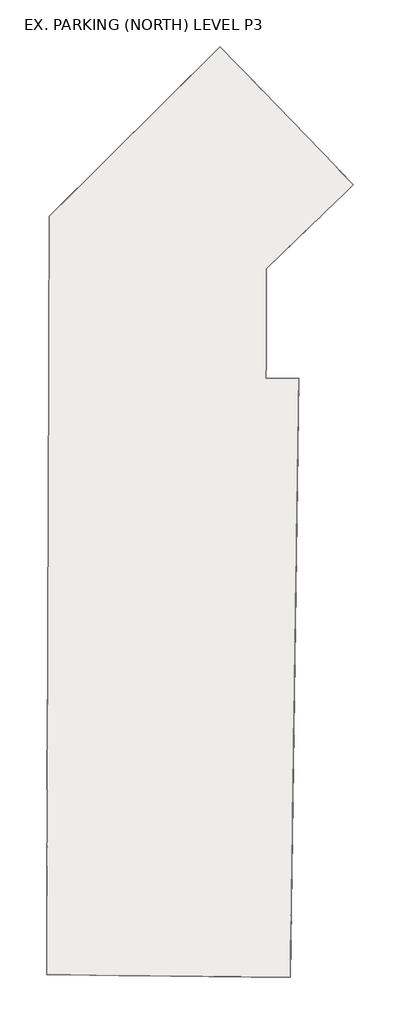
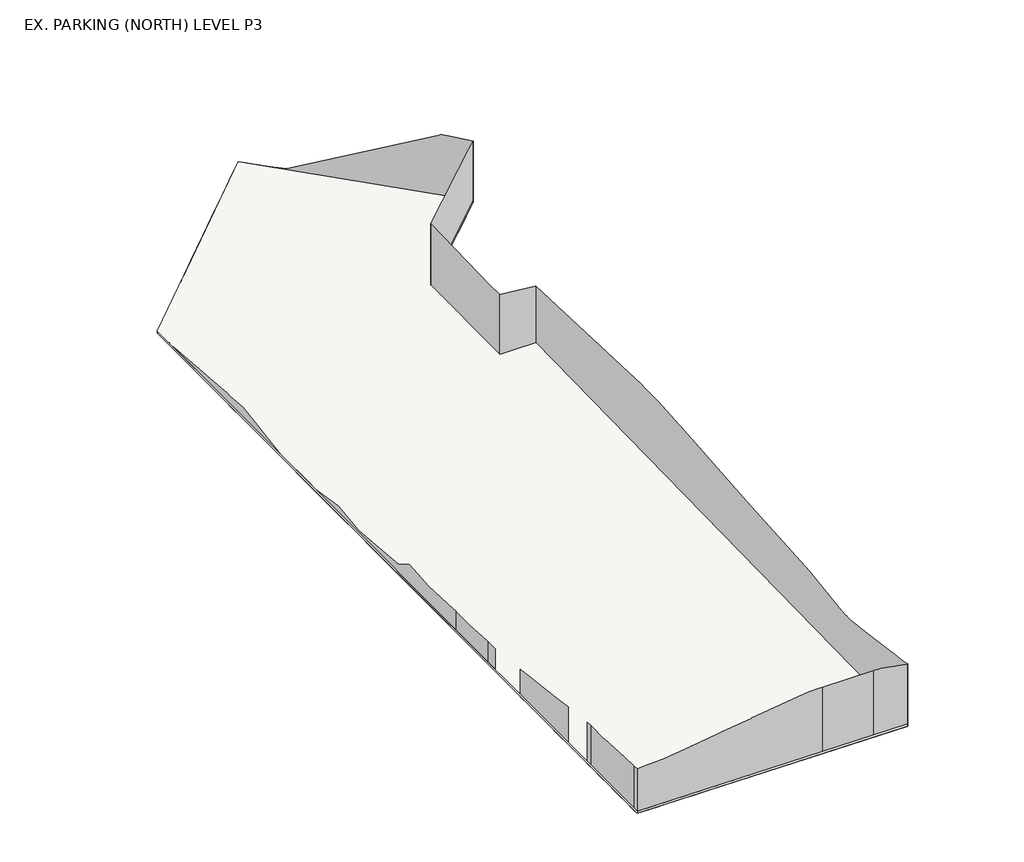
# One storey: 1 proxy, 1 slab.
"""IFC4 building model written with IfcOpenShell, lengths in millimetres."""

from ifc_helpers import new_model, si_unit, frame, origin, place, context, project, spatial, polyline, outline, extrude, triangles, element, save

model = new_model("IFC4")

# Units and contexts
model_context = context("Model", 3, world=origin())
ifc_project = project(units=[si_unit("LENGTHUNIT", "METRE", prefix="MILLI")], contexts=[model_context])

# Site, building, storey
site = spatial("IfcSite", under=ifc_project)
building = spatial("IfcBuilding", under=site)
storey = spatial("IfcBuildingStorey", under=building, Name="EX. PARKING (NORTH) LEVEL P3", Elevation=284378.4)

# Proxy
placement = place(None, origin())
element("IfcBuildingElementProxy", 1, Name="Building Element Proxy", at=placement, inside=storey, context=model_context, shape_type="Tessellation", body=[
    triangles([(-65365.5869019, 244857.5937012, 284073.4325684), (-65365.5869019, 244857.5937012, 287121.6), (-65365.3404053, 244927.1522461, 284073.4325684), (-65365.3404053, 244927.1522461, 287121.6), (-65365.3125, 244935.5424316, 284073.4325684), (-65365.3125, 244935.5424316, 287113.0051758), (-65364.8706665, 245059.9999512, 284073.4325684), (-65364.8706665, 245059.9999512, 287120.2977539), (-65364.8288086, 245072.1666504, 284073.4325684), (-65364.8288086, 245072.1666504, 287088.5229492), (-65364.8102051, 245077.5058594, 284073.4325684), (-65364.8102051, 245077.5058594, 287092.448291), (-65364.6753296, 245115.4198242, 284073.4325684), (-65364.6753296, 245115.4198242, 287121.6), (-65364.545105, 245151.3804199, 284073.4325684), (-65364.545105, 245151.3804199, 287121.6), (-65364.3637207, 245203.5446777, 284073.4325684), (-65364.3637207, 245203.5446777, 287125.4137207), (-65364.3497681, 245207.4328125, 284073.4325684), (-65364.3497681, 245207.4328125, 287126.0834473), (-65341.5, 251657.9972168, 284073.4325684), (-65341.5, 251657.9972168, 286821.5438965), (-65335.8352295, 253256.1694336, 284073.4325684), (-65335.8352295, 253256.1694336, 286924.9608398), (-65325.5939941, 256147.2859863, 284073.4325684), (-65325.5939941, 256147.2859863, 287115.6282715), (-65325.5474854, 256161.3316406, 284073.4325684), (-65325.5474854, 256161.3316406, 287121.6), (-65325.5381836, 256163.2478027, 284073.4325684), (-65325.5381836, 256163.2478027, 287121.6), (-65325.5195801, 256168.2521484, 284073.4325684), (-65325.5195801, 256168.2521484, 287113.6935059), (-65316.5666382, 258695.9118164, 284073.4325684), (-65316.5666382, 258695.9118164, 285597.6), (-65305.3998779, 261848.9286621, 284073.4325684), (-65305.3998779, 261848.9286621, 285292.8), (-65294.2284668, 265001.9641113, 284073.4325684), (-65294.2284668, 265001.9641113, 284988.0), (-65282.0757202, 268432.5640137, 284073.4325684), (-65282.0757202, 268432.5640137, 284683.2), (-65265.1279175, 273216.6068848, 284073.4325684), (-65265.1279175, 273216.6068848, 285307.9432617), (-65264.3977295, 273423.7198242, 284073.4325684), (-65264.3977295, 273423.7198242, 285298.9205566), (-65245.4128418, 278782.6299316, 284073.4325684), (-65245.4128418, 278782.6299316, 284378.4), (-65243.8547974, 279222.6402832, 284073.4325684), (-65243.8547974, 279222.6402832, 284374.5118652), (-65243.6129517, 279291.1012207, 284073.4325684), (-65243.6129517, 279291.1012207, 284378.4), (-65242.9618286, 279474.3458496, 284073.4325684), (-65242.9618286, 279474.3458496, 284378.4), (-65241.8363159, 279792.2799316, 284073.4325684), (-65241.8363159, 279792.2799316, 284487.4538086), (-65241.7898071, 279805.2837891, 284073.4325684), (-65241.7898071, 279805.2837891, 284479.1752441), (-65241.6874878, 279834.8633789, 284073.4325684), (-65241.6874878, 279834.8633789, 284471.4733887), (-65215.3728149, 287263.2657715, 284073.4325684), (-65215.3728149, 287263.2657715, 284378.4), (-65183.2305908, 296335.8654785, 284073.4325684), (-65183.2305908, 296335.8654785, 285793.9415039), (-65171.4685181, 299657.2255371, 284073.4325684), (-65171.4685181, 299657.2255371, 285531.9854004), (-65170.8313477, 299837.0471191, 284073.4325684), (-65170.8313477, 299837.0471191, 285547.5193359), (-65168.9849487, 300357.7223145, 284073.4325684), (-65168.9849487, 300357.7223145, 285521.9953125), (-65167.5013184, 300776.4502441, 284073.4325684), (-65167.5013184, 300776.4502441, 285517.9769531), (-65120.9785767, 313910.625293, 284073.4325684), (-65120.9785767, 313910.625293, 284363.6102051), (-65120.3786133, 314079.1731445, 284073.4325684), (-65120.3786133, 314079.1731445, 284385.0786621), (-65120.0623535, 314168.5816406, 284073.4325684), (-65120.0623535, 314168.5816406, 284401.4869629), (-65117.0299805, 315025.3851563, 284073.4325684), (-65117.0299805, 315025.3851563, 284304.1905762), (-65115.7277344, 315392.1720703, 284073.4325684), (-65115.7277344, 315392.1720703, 284073.6), (-65114.2161987, 315819.234375, 284073.4325684), (-65114.2161987, 315819.234375, 284073.6), (-65112.0721436, 316424.3323242, 284073.4325684), (-65112.0721436, 316424.3323242, 284073.6), (-65109.7467041, 317081.334082, 284073.4325684), (-65109.7467041, 317081.334082, 284080.7251465)], [[1, 4, 2], [1, 3, 4], [3, 6, 4], [3, 5, 6], [5, 8, 6], [5, 7, 8], [7, 10, 8], [7, 9, 10], [9, 12, 10], [9, 11, 12], [11, 14, 12], [11, 13, 14], [13, 16, 14], [13, 15, 16], [15, 18, 16], [15, 17, 18], [17, 20, 18], [17, 19, 20], [19, 22, 20], [19, 21, 22], [21, 24, 22], [21, 23, 24], [23, 26, 24], [23, 25, 26], [25, 28, 26], [25, 27, 28], [27, 30, 28], [27, 29, 30], [29, 32, 30], [29, 31, 32], [31, 34, 32], [31, 33, 34], [33, 36, 34], [33, 35, 36], [35, 38, 36], [35, 37, 38], [37, 40, 38], [37, 39, 40], [39, 42, 40], [39, 41, 42], [41, 44, 42], [41, 43, 44], [43, 46, 44], [43, 45, 46], [45, 48, 46], [45, 47, 48], [47, 50, 48], [47, 49, 50], [49, 52, 50], [49, 51, 52], [51, 54, 52], [51, 53, 54], [53, 56, 54], [53, 55, 56], [55, 58, 56], [55, 57, 58], [57, 60, 58], [57, 59, 60], [59, 62, 60], [59, 61, 62], [61, 64, 62], [61, 63, 64], [63, 66, 64], [63, 65, 66], [65, 68, 66], [65, 67, 68], [67, 70, 68], [67, 69, 70], [69, 72, 70], [69, 71, 72], [71, 74, 72], [71, 73, 74], [73, 76, 74], [73, 75, 76], [75, 78, 76], [75, 77, 78], [77, 80, 78], [77, 79, 80], [79, 82, 80], [79, 81, 82], [81, 84, 82], [81, 83, 84], [83, 86, 84], [83, 85, 86]], closed=False),
    triangles([(-65399.3197266, 235335.4400391, 284073.4325684), (-65399.3197266, 235335.4400391, 287409.6382324), (-65393.3805542, 237012.1935059, 284073.4325684), (-65393.3805542, 237012.1935059, 287386.7745117)], [[1, 4, 2], [1, 3, 4]], closed=False),
    triangles([(-65461.7438232, 217712.311084, 284073.4325684), (-65461.7438232, 217712.311084, 289560.0), (-65453.5024658, 220038.9783691, 284073.4325684), (-65453.5024658, 220038.9783691, 289255.2), (-65445.121582, 222404.9920898, 284073.4325684), (-65445.121582, 222404.9920898, 288950.4), (-65436.5267578, 224831.2998047, 284073.4325684), (-65436.5267578, 224831.2998047, 288645.6), (-65427.9319336, 227257.626123, 284073.4325684), (-65427.9319336, 227257.626123, 288340.8), (-65420.9044556, 229241.3934082, 284073.4325684), (-65420.9044556, 229241.3934082, 288056.780127), (-65420.848645, 229257.9133301, 284073.4325684), (-65420.848645, 229257.9133301, 288056.8731445)], [[1, 4, 2], [1, 3, 4], [3, 6, 4], [3, 5, 6], [5, 8, 6], [5, 7, 8], [7, 10, 8], [7, 9, 10], [9, 12, 10], [9, 11, 12], [11, 14, 12], [11, 13, 14]], closed=False),
    triangles([(-65480.993811, 212278.0009277, 284073.4325684), (-65480.993811, 212278.0009277, 290175.9437988), (-65480.765918, 212343.2806641, 284073.4325684), (-65480.765918, 212343.2806641, 290176.0182129), (-65478.3009521, 213039.0521484, 284073.4325684), (-65478.3009521, 213039.0521484, 290178.9017578)], [[1, 4, 2], [1, 3, 4], [3, 6, 4], [3, 5, 6]], closed=False),
    triangles([(-39970.0439941, 200737.8495117, 284073.4325684), (-39970.0439941, 200737.8495117, 293827.2), (-40449.1124268, 200743.2631348, 284073.4325684), (-40449.1124268, 200743.2631348, 293827.2), (-41620.3200073, 200756.4902344, 284073.4325684), (-41620.3200073, 200756.4902344, 293827.2), (-41652.7924438, 200756.8437012, 284073.4325684), (-41652.7924438, 200756.8437012, 293827.2), (-41845.1341919, 200759.0203125, 284073.4325684), (-41845.1341919, 200759.0203125, 293827.2), (-45643.3721191, 200801.9200195, 284073.4325684), (-45643.3721191, 200801.9200195, 293248.3330078), (-45761.7927979, 200803.2408691, 284073.4325684), (-45761.7927979, 200803.2408691, 293250.7328613), (-49680.4140747, 200847.4986328, 284073.4325684), (-49680.4140747, 200847.4986328, 292644.2768555), (-49709.1518555, 200847.8148926, 284073.4325684), (-49709.1518555, 200847.8148926, 292643.4583008), (-53812.4688354, 200894.15625, 284073.4325684), (-53812.4688354, 200894.15625, 292005.2460938), (-53818.8265869, 200894.2306641, 284073.4325684), (-53818.8265869, 200894.2306641, 292004.2787109), (-53823.8588379, 200894.2864746, 284073.4325684), (-53823.8588379, 200894.2864746, 292003.1625), (-54417.9295532, 200900.9837402, 284073.4325684), (-54417.9295532, 200900.9837402, 291911.0750977), (-57891.2431274, 200940.2185547, 284073.4325684), (-57891.2431274, 200940.2185547, 291408.2034668), (-58023.6815552, 200941.7068359, 284073.4325684), (-58023.6815552, 200941.7068359, 291388.8), (-58041.8757935, 200941.9114746, 284073.4325684), (-58041.8757935, 200941.9114746, 291388.8), (-61825.7611084, 200984.64375, 284073.4325684), (-61825.7611084, 200984.64375, 290843.4751465), (-62232.3828003, 200989.2202148, 284073.4325684), (-62232.3828003, 200989.2202148, 290779.2), (-62400.3074341, 200991.1177734, 284073.4325684), (-62400.3074341, 200991.1177734, 290779.2), (-63926.4468384, 201008.3632324, 284073.4325684), (-63926.4468384, 201008.3632324, 290715.0736816), (-65520.8518433, 201026.352832, 284073.4325684), (-65520.8518433, 201026.352832, 290612.4194824), (-65518.6287231, 201653.7191895, 284073.4325684), (-65518.6287231, 201653.7191895, 290585.4071777)], [[1, 4, 2], [1, 3, 4], [3, 6, 4], [3, 5, 6], [5, 8, 6], [5, 7, 8], [7, 10, 8], [7, 9, 10], [9, 12, 10], [9, 11, 12], [11, 14, 12], [11, 13, 14], [13, 16, 14], [13, 15, 16], [15, 18, 16], [15, 17, 18], [17, 20, 18], [17, 19, 20], [19, 22, 20], [19, 21, 22], [21, 24, 22], [21, 23, 24], [23, 26, 24], [23, 25, 26], [25, 28, 26], [25, 27, 28], [27, 30, 28], [27, 29, 30], [29, 32, 30], [29, 31, 32], [31, 34, 32], [31, 33, 34], [33, 36, 34], [33, 35, 36], [35, 38, 36], [35, 37, 38], [37, 40, 38], [37, 39, 40], [39, 42, 40], [39, 41, 42], [41, 44, 42], [41, 43, 44]], closed=False),
    triangles([(-65109.7467041, 317081.334082, 284073.4325684), (-65109.7467041, 317081.334082, 284080.7251465), (-61609.9045166, 320552.4524414, 284073.4325684), (-61609.9045166, 320552.4524414, 284083.9435547), (-61389.815625, 320770.7460938, 284073.4325684), (-61389.815625, 320770.7460938, 284084.2040039), (-61376.1885498, 320784.2522461, 284073.4325684), (-61376.1885498, 320784.2522461, 284083.9807617), (-54216.3418579, 327885.4001953, 284073.4325684), (-54216.3418579, 327885.4001953, 284378.4), (-50339.6343018, 331730.3375977, 284073.4325684), (-50339.6343018, 331730.3375977, 284378.4), (-46131.4539551, 335903.9991211, 284073.4325684), (-46131.4539551, 335903.9991211, 284378.4), (-43940.708606, 338076.778125, 284073.4325684), (-43940.708606, 338076.778125, 284378.4), (-40640.2309937, 341350.1783203, 284073.4325684), (-40640.2309937, 341350.1783203, 284378.4), (-38928.9587036, 343047.4142578, 284073.4325684), (-38928.9587036, 343047.4142578, 284378.4), (-36176.4662476, 340196.2394531, 284073.4325684), (-36176.4662476, 340196.2394531, 284378.4), (-34692.9591248, 338659.5518555, 284073.4325684), (-34692.9591248, 338659.5518555, 284512.0290527), (-21219.339679, 324702.8595703, 284073.4325684), (-21219.339679, 324702.8595703, 293275.4569336), (-20544.5366821, 324003.8510742, 284073.4325684), (-20544.5366821, 324003.8510742, 293212.8933105), (-18495.3699005, 321881.2271484, 284073.4325684), (-18495.3699005, 321881.2271484, 293089.2171387), (-20446.4031372, 319997.7328125, 284073.4325684), (-20446.4031372, 319997.7328125, 293209.879541), (-20878.5953613, 319580.4931641, 284073.4325684), (-20878.5953613, 319580.4931641, 293223.9251953), (-23344.6471619, 317199.8012695, 284073.4325684), (-23344.6471619, 317199.8012695, 293255.2349121), (-23596.345752, 316956.8021484, 284073.4325684), (-23596.345752, 316956.8021484, 293256.1278809), (-24444.298645, 316138.2102539, 284073.4325684), (-24444.298645, 316138.2102539, 293257.0580566), (-31788.7573242, 309047.9639648, 284073.4325684), (-31788.7573242, 309047.9639648, 293421.736377), (-31855.8997375, 294682.2175781, 284073.4325684), (-31855.8997375, 294682.2175781, 292995.1205566), (-31867.0920776, 292287.3684082, 284073.4325684), (-31867.0920776, 292287.3684082, 293132.2284668), (-26879.1639771, 292264.0582031, 284073.4325684), (-26879.1639771, 292264.0582031, 292677.3166992), (-27228.3682434, 267602.2705078, 284073.4325684), (-27228.3682434, 267602.2705078, 294110.5873535), (-27246.2276184, 266340.9335449, 284073.4325684), (-27246.2276184, 266340.9335449, 294109.4711426), (-27259.4384399, 265408.0044434, 284073.4325684), (-27259.4384399, 265408.0044434, 294106.2899414), (-27260.68255, 265320.1214355, 284073.4325684), (-27260.68255, 265320.1214355, 294104.3923828), (-27261.7266724, 265246.3026855, 284073.4325684), (-27261.7266724, 265246.3026855, 294103.9831055), (-27263.8846802, 265093.884082, 284073.4325684), (-27263.8846802, 265093.884082, 294104.2807617), (-27306.5006836, 262084.3561523, 284073.4325684), (-27306.5006836, 262084.3561523, 294132.0), (-27377.6637817, 257058.5605957, 284073.4325684), (-27377.6637817, 257058.5605957, 293874.285498), (-27382.0053772, 256751.9188477, 284073.4325684), (-27382.0053772, 256751.9188477, 293866.0999512), (-27382.3123352, 256730.2643555, 284073.4325684), (-27382.3123352, 256730.2643555, 293865.7836914), (-27615.5980957, 240254.8420898, 284073.4325684), (-27615.5980957, 240254.8420898, 292831.1491699), (-27833.701062, 224851.8008789, 284073.4325684), (-27833.701062, 224851.8008789, 292016.7058594), (-27946.0290894, 216918.740918, 284073.4325684), (-27946.0290894, 216918.740918, 291051.7229004), (-27947.7103821, 216800.1435059, 284073.4325684), (-27947.7103821, 216800.1435059, 291050.7741211), (-27957.7841858, 216088.5776367, 284073.4325684), (-27957.7841858, 216088.5776367, 291043.5001465), (-27959.5677979, 215962.7248535, 284073.4325684), (-27959.5677979, 215962.7248535, 291045.4163086), (-27961.7258057, 215810.269043, 284073.4325684), (-27961.7258057, 215810.269043, 291037.9004883), (-27965.4627869, 215546.3409668, 284073.4325684), (-27965.4627869, 215546.3409668, 291008.5069336), (-27975.5551941, 214833.5658691, 284073.4325684), (-27975.5551941, 214833.5658691, 291008.2836914), (-28035.7654724, 210581.3975098, 284073.4325684), (-28035.7654724, 210581.3975098, 291618.3115723), (-28036.3910156, 210537.1769531, 284073.4325684), (-28036.3910156, 210537.1769531, 291617.5302246), (-28072.7353088, 207970.4871094, 284073.4325684), (-28072.7353088, 207970.4871094, 291999.8882813), (-28119.6859314, 204654.726709, 284073.4325684), (-28119.6859314, 204654.726709, 292469.236377), (-28122.3439087, 204466.9428223, 284073.4325684), (-28122.3439087, 204466.9428223, 292533.5115234), (-28158.7207581, 201897.9461426, 284073.4325684), (-28158.7207581, 201897.9461426, 292972.0708008), (-28174.0244751, 200817.1562988, 284073.4325684), (-28174.0244751, 200817.1562988, 293171.779541), (-28177.0312683, 200604.6855469, 284073.4325684), (-28177.0312683, 200604.6855469, 293208.1680176), (-28228.4839417, 200605.2622559, 284073.4325684), (-28228.4839417, 200605.2622559, 293217.6), (-28306.3443054, 200606.1552246, 284073.4325684), (-28306.3443054, 200606.1552246, 293217.6), (-28844.1812439, 200612.2199707, 284073.4325684), (-28844.1812439, 200612.2199707, 293324.4771973), (-31807.8282532, 200645.6876953, 284073.4325684), (-31807.8282532, 200645.6876953, 293827.2), (-31905.7106506, 200646.7853027, 284073.4325684), (-31905.7106506, 200646.7853027, 293827.2), (-32212.5616882, 200650.2455566, 284073.4325684), (-32212.5616882, 200650.2455566, 293827.2), (-32620.3972595, 200654.8592285, 284073.4325684), (-32620.3972595, 200654.8592285, 293827.2), (-32780.2177368, 200656.6637695, 284073.4325684), (-32780.2177368, 200656.6637695, 293827.2), (-32862.3917908, 200657.5939453, 284073.4325684), (-32862.3917908, 200657.5939453, 293827.2)], [[1, 4, 2], [1, 3, 4], [3, 6, 4], [3, 5, 6], [5, 8, 6], [5, 7, 8], [7, 10, 8], [7, 9, 10], [9, 12, 10], [9, 11, 12], [11, 14, 12], [11, 13, 14], [13, 16, 14], [13, 15, 16], [15, 18, 16], [15, 17, 18], [17, 20, 18], [17, 19, 20], [19, 22, 20], [19, 21, 22], [21, 24, 22], [21, 23, 24], [23, 26, 24], [23, 25, 26], [25, 28, 26], [25, 27, 28], [27, 30, 28], [27, 29, 30], [29, 32, 30], [29, 31, 32], [31, 34, 32], [31, 33, 34], [33, 36, 34], [33, 35, 36], [35, 38, 36], [35, 37, 38], [37, 40, 38], [37, 39, 40], [39, 42, 40], [39, 41, 42], [41, 44, 42], [41, 43, 44], [43, 46, 44], [43, 45, 46], [45, 48, 46], [45, 47, 48], [47, 50, 48], [47, 49, 50], [49, 52, 50], [49, 51, 52], [51, 54, 52], [51, 53, 54], [53, 56, 54], [53, 55, 56], [55, 58, 56], [55, 57, 58], [57, 60, 58], [57, 59, 60], [59, 62, 60], [59, 61, 62], [61, 64, 62], [61, 63, 64], [63, 66, 64], [63, 65, 66], [65, 68, 66], [65, 67, 68], [67, 70, 68], [67, 69, 70], [69, 72, 70], [69, 71, 72], [71, 74, 72], [71, 73, 74], [73, 76, 74], [73, 75, 76], [75, 78, 76], [75, 77, 78], [77, 80, 78], [77, 79, 80], [79, 82, 80], [79, 81, 82], [81, 84, 82], [81, 83, 84], [83, 86, 84], [83, 85, 86], [85, 88, 86], [85, 87, 88], [87, 90, 88], [87, 89, 90], [89, 92, 90], [89, 91, 92], [91, 94, 92], [91, 93, 94], [93, 96, 94], [93, 95, 96], [95, 98, 96], [95, 97, 98], [97, 100, 98], [97, 99, 100], [99, 102, 100], [99, 101, 102], [101, 104, 102], [101, 103, 104], [103, 106, 104], [103, 105, 106], [105, 108, 106], [105, 107, 108], [107, 110, 108], [107, 109, 110], [109, 112, 110], [109, 111, 112], [111, 114, 112], [111, 113, 114], [113, 116, 114], [113, 115, 116], [115, 118, 116], [115, 117, 118], [117, 120, 118], [117, 119, 120]], closed=False),
    triangles([(-65399.3197266, 235335.4400391, 284073.4325684), (-65399.3197266, 235335.4400391, 287409.6382324), (-65393.3805542, 237012.1935059, 284073.4325684), (-65393.3805542, 237012.1935059, 287386.7745117), (-65392.5759521, 237238.3192383, 284073.4325684), (-65392.5759521, 237238.3192383, 287390.067334), (-65377.1722412, 241587.2816895, 284073.4325684), (-65377.1722412, 241587.2816895, 287121.6), (-65365.5869019, 244857.5937012, 284073.4325684), (-65365.5869019, 244857.5937012, 287121.6)], [[1, 4, 2], [1, 3, 4], [3, 6, 4], [3, 5, 6], [5, 8, 6], [5, 7, 8], [7, 10, 8], [7, 9, 10]], closed=False),
    triangles([(-65518.6287231, 201653.7191895, 284073.4325684), (-65518.6287231, 201653.7191895, 290585.4071777), (-65510.6989746, 203892.4290527, 284073.4325684), (-65510.6989746, 203892.4290527, 290489.0223633), (-65505.5830078, 205337.0850586, 284073.4325684), (-65505.5830078, 205337.0850586, 290408.8412109), (-65492.5512451, 209016.6, 284073.4325684), (-65492.5512451, 209016.6, 290171.7208008), (-65492.5000854, 209030.924707, 284073.4325684), (-65492.5000854, 209030.924707, 290171.5533691), (-65492.4489258, 209044.598291, 284073.4325684), (-65492.4489258, 209044.598291, 290172.7998047), (-65480.993811, 212278.0009277, 284073.4325684), (-65480.993811, 212278.0009277, 290175.9437988)], [[1, 4, 2], [1, 3, 4], [3, 6, 4], [3, 5, 6], [5, 8, 6], [5, 7, 8], [7, 10, 8], [7, 9, 10], [9, 12, 10], [9, 11, 12], [11, 14, 12], [11, 13, 14]], closed=False),
    triangles([(-32862.3917908, 200657.5939453, 284073.4325684), (-32862.3917908, 200657.5939453, 293827.2), (-33013.9662598, 200659.3054688, 284073.4325684), (-33013.9662598, 200659.3054688, 293827.2), (-39970.0439941, 200737.8495117, 284073.4325684), (-39970.0439941, 200737.8495117, 293827.2)], [[1, 4, 2], [1, 3, 4], [3, 6, 4], [3, 5, 6]], closed=False),
    triangles([(-65109.7467041, 317081.334082, 284073.4325684), (-65520.8518433, 201026.352832, 284073.4325684), (-28177.0312683, 200604.6855469, 284073.4325684), (-26879.1639771, 292264.0582031, 284073.4325684), (-31867.0920776, 292287.3684082, 284073.4325684), (-31788.7573242, 309047.9639648, 284073.4325684), (-18495.3699005, 321881.2271484, 284073.4325684), (-38928.9587036, 343047.4142578, 284073.4325684)], [[2, 5, 1], [5, 2, 3], [6, 8, 1], [1, 5, 6], [6, 7, 8], [4, 5, 3]], closed=False),
])

# Slab
element("IfcSlab", 2, ObjectType="Pad 1", at=placement, inside=storey, context=model_context, shape_type="SweptSolid", body=[
    extrude(outline(polyline([(-65109.7449632, 317081.3242372), (-38928.9586332, 343047.4326997), (-18495.3702105, 321881.2285701), (-31788.7581813, 309047.9582833), (-31867.0916688, 292287.3687604), (-26879.1648788, 292264.0568297), (-28177.032006, 200604.6862868), (-65520.8532, 201026.3613744), (-65109.7449632, 317081.3242372)])), frame((0.0, 0.0, 284073.6), z_axis=(0.0, 0.0, 1.0), x_axis=(1.0, 0.0, 0.0)), (0.0, 0.0, 1.0), 304.8),
])

save(model, "model.ifc")
